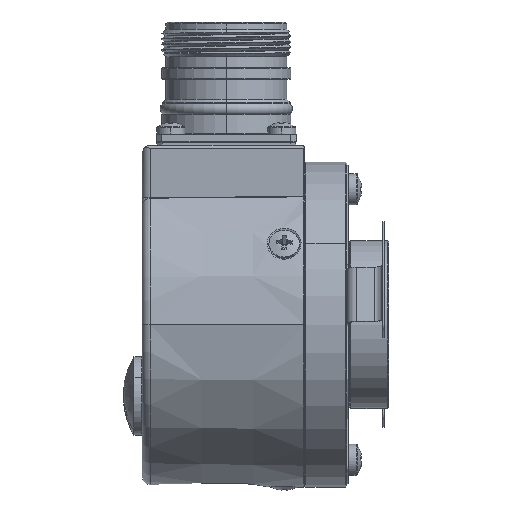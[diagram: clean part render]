
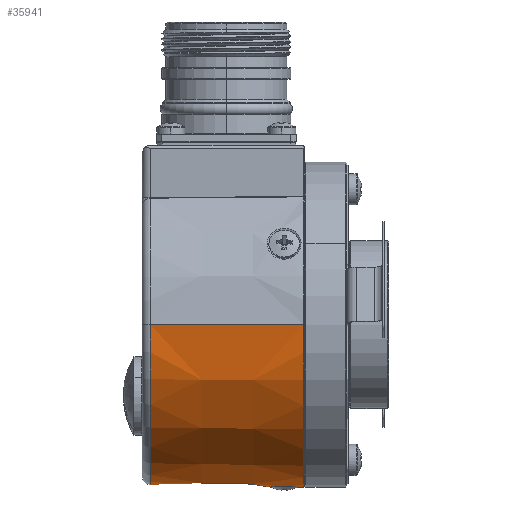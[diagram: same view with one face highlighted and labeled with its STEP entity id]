
A CAD part, left-side view. The second image highlights one B-rep face of the part: STEP entity #35941.
In plain terms, the highlighted conical face has half-angle 1 degrees and reference radius 28.565 mm.
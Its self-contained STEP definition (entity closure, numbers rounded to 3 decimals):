
#1093 = DIRECTION ( 'NONE',  ( 0., 1., 0. ) ) ;
#3034 = CARTESIAN_POINT ( 'NONE',  ( 2.503, 5.537, -28.866 ) ) ;
#3074 = CARTESIAN_POINT ( 'NONE',  ( -0.24, 6.713, -28.956 ) ) ;
#3429 = CARTESIAN_POINT ( 'NONE',  ( -0.851, 6.591, -28.944 ) ) ;
#3748 = CARTESIAN_POINT ( 'NONE',  ( 1.953, 1.286, -28.984 ) ) ;
#3786 = CARTESIAN_POINT ( 'NONE',  ( -1.43, 6.377, -28.925 ) ) ;
#4266 = DIRECTION ( 'NONE',  ( 1., 0., 0. ) ) ;
#4415 = CARTESIAN_POINT ( 'NONE',  ( 2.534, 1.849, -28.928 ) ) ;
#4455 = CARTESIAN_POINT ( 'NONE',  ( -2.115, 5.932, -28.891 ) ) ;
#5082 = CARTESIAN_POINT ( 'NONE',  ( -1.737, 1.146, -28.999 ) ) ;
#6358 = EDGE_CURVE ( 'NONE', #52792, #30845, #35399, .T. ) ;
#7968 = VECTOR ( 'NONE', #47500, 1000. ) ;
#8179 = CARTESIAN_POINT ( 'NONE',  ( 0., 27.526, 0. ) ) ;
#8319 = CARTESIAN_POINT ( 'NONE',  ( 3.187, 3.897, -28.828 ) ) ;
#8553 = EDGE_LOOP ( 'NONE', ( #58166, #69207, #32400, #45839 ) ) ;
#8694 = CARTESIAN_POINT ( 'NONE',  ( -1.957, 6.058, -28.9 ) ) ;
#9039 = CARTESIAN_POINT ( 'NONE',  ( -2.735, 2.136, -28.905 ) ) ;
#9351 = CARTESIAN_POINT ( 'NONE',  ( 1.738, 6.2, -28.911 ) ) ;
#9691 = CARTESIAN_POINT ( 'NONE',  ( -1.563, 1.038, -29.012 ) ) ;
#10178 = CARTESIAN_POINT ( 'NONE',  ( -28.591, 27.526, 0. ) ) ;
#10534 = CARTESIAN_POINT ( 'NONE',  ( 28.591, 27.526, 0. ) ) ;
#10946 = CARTESIAN_POINT ( 'NONE',  ( -28.565, 29., 0. ) ) ;
#11856 = AXIS2_PLACEMENT_3D ( 'NONE', #8179, #56467, #4266 ) ;
#13922 = CARTESIAN_POINT ( 'NONE',  ( -0.387, 0.668, -29.058 ) ) ;
#13959 = CARTESIAN_POINT ( 'NONE',  ( -1.048, 6.532, -28.939 ) ) ;
#14605 = CARTESIAN_POINT ( 'NONE',  ( 3.073, 2.911, -28.857 ) ) ;
#14650 = CARTESIAN_POINT ( 'NONE',  ( 0.998, 6.569, -28.942 ) ) ;
#14969 = CARTESIAN_POINT ( 'NONE',  ( 3.06, 4.481, -28.831 ) ) ;
#15003 = CARTESIAN_POINT ( 'NONE',  ( 1.389, 6.418, -28.928 ) ) ;
#15302 = CARTESIAN_POINT ( 'NONE',  ( -0.997, 0.798, -29.041 ) ) ;
#15688 = CARTESIAN_POINT ( 'NONE',  ( -1.737, 1.146, -28.999 ) ) ;
#16136 = DIRECTION ( 'NONE',  ( -1., 0., 0. ) ) ;
#18038 = AXIS2_PLACEMENT_3D ( 'NONE', #55358, #1093, #54317 ) ;
#18456 = CARTESIAN_POINT ( 'NONE',  ( -1.737, 1.146, -28.999 ) ) ;
#19194 = CARTESIAN_POINT ( 'NONE',  ( 1.738, 6.2, -28.911 ) ) ;
#19845 = CARTESIAN_POINT ( 'NONE',  ( 3.189, 3.494, -28.834 ) ) ;
#20189 = CARTESIAN_POINT ( 'NONE',  ( 1.439, 0.952, -29.021 ) ) ;
#24802 = CARTESIAN_POINT ( 'NONE',  ( -0.796, 0.742, -29.048 ) ) ;
#24845 = CARTESIAN_POINT ( 'NONE',  ( -3.166, 3.446, -28.838 ) ) ;
#25180 = CARTESIAN_POINT ( 'NONE',  ( -2.385, 1.646, -28.945 ) ) ;
#25890 = CARTESIAN_POINT ( 'NONE',  ( -2.879, 4.997, -28.842 ) ) ;
#25893 = VERTEX_POINT ( 'NONE', #33362 ) ;
#26187 = CARTESIAN_POINT ( 'NONE',  ( 28.565, 29., 0. ) ) ;
#26368 = AXIS2_PLACEMENT_3D ( 'NONE', #47985, #52522, #16136 ) ;
#29596 = VERTEX_POINT ( 'NONE', #58517 ) ;
#29774 = CARTESIAN_POINT ( 'NONE',  ( -3.036, 4.625, -28.831 ) ) ;
#30104 = CARTESIAN_POINT ( 'NONE',  ( -2.536, 5.495, -28.864 ) ) ;
#30429 = CARTESIAN_POINT ( 'NONE',  ( 2.404, 1.696, -28.942 ) ) ;
#30471 = CARTESIAN_POINT ( 'NONE',  ( -3.144, 3.25, -28.844 ) ) ;
#30769 = CARTESIAN_POINT ( 'NONE',  ( 0.233, 0.653, -29.06 ) ) ;
#30845 = VERTEX_POINT ( 'NONE', #10534 ) ;
#30908 = FACE_BOUND ( 'NONE', #65441, .T. ) ;
#31102 = CARTESIAN_POINT ( 'NONE',  ( 2.761, 2.178, -28.902 ) ) ;
#32400 = ORIENTED_EDGE ( 'NONE', *, *, #63447, .T. ) ;
#33362 = CARTESIAN_POINT ( 'NONE',  ( 29.068, 0.197, 0. ) ) ;
#34308 = B_SPLINE_CURVE_WITH_KNOTS ( 'NONE', 3,
 ( #18456, #9691, #41620, #15302, #24802, #13922, #62522, #30769, #57308, #51018, #20189, #3748, #36701, #30429, #4415, #31102, #62884, #51707, #14605, #19845, #8319, #14969, #68097, #52381, #51352, #3034, #36356, #41262, #36029, #9351 ),
 .UNSPECIFIED., .F., .F.,
 ( 4, 2, 2, 2, 2, 2, 2, 2, 2, 2, 2, 2, 2, 2, 4 ),
 ( 0.998, 1.029, 1.06, 1.092, 1.123, 1.185, 1.217, 1.248, 1.279, 1.31, 1.373, 1.404, 1.435, 1.467, 1.498 ),
 .UNSPECIFIED. ) ;
#34701 = B_SPLINE_CURVE_WITH_KNOTS ( 'NONE', 3,
 ( #19194, #15003, #14650, #57674, #3074, #3429, #13959, #3786, #56997, #8694, #4455, #41310, #30104, #25890, #29774, #62569, #51394, #24845, #30471, #46194, #67476, #36072, #9039, #25180, #57350, #15688 ),
 .UNSPECIFIED., .F., .F.,
 ( 4, 2, 2, 2, 2, 2, 2, 2, 2, 2, 2, 2, 4 ),
 ( 0.498, 0.56, 0.623, 0.654, 0.685, 0.717, 0.748, 0.81, 0.842, 0.873, 0.904, 0.935, 0.998 ),
 .UNSPECIFIED. ) ;
#35399 = CIRCLE ( 'NONE', #11856, 28.591 ) ;
#35941 = ADVANCED_FACE ( 'NONE', ( #30908, #47652 ), #67653, .T. ) ;
#36029 = CARTESIAN_POINT ( 'NONE',  ( 1.913, 6.091, -28.902 ) ) ;
#36072 = CARTESIAN_POINT ( 'NONE',  ( -2.834, 2.308, -28.892 ) ) ;
#36356 = CARTESIAN_POINT ( 'NONE',  ( 2.371, 5.688, -28.875 ) ) ;
#36701 = CARTESIAN_POINT ( 'NONE',  ( 2.113, 1.413, -28.97 ) ) ;
#41262 = CARTESIAN_POINT ( 'NONE',  ( 2.076, 5.965, -28.893 ) ) ;
#41310 = CARTESIAN_POINT ( 'NONE',  ( -2.405, 5.65, -28.873 ) ) ;
#41620 = CARTESIAN_POINT ( 'NONE',  ( -1.381, 0.946, -29.022 ) ) ;
#42285 = LINE ( 'NONE', #26187, #7968 ) ;
#44110 = EDGE_CURVE ( 'NONE', #52792, #29596, #62469, .T. ) ;
#44954 = CIRCLE ( 'NONE', #18038, 29.068 ) ;
#45839 = ORIENTED_EDGE ( 'NONE', *, *, #44110, .F. ) ;
#46194 = CARTESIAN_POINT ( 'NONE',  ( -3.059, 2.863, -28.86 ) ) ;
#47500 = DIRECTION ( 'NONE',  ( 0.017, -1., 0. ) ) ;
#47652 = FACE_OUTER_BOUND ( 'NONE', #8553, .T. ) ;
#47985 = CARTESIAN_POINT ( 'NONE',  ( 0., 29., 0. ) ) ;
#48380 = EDGE_CURVE ( 'NONE', #30845, #25893, #42285, .T. ) ;
#48387 = VERTEX_POINT ( 'NONE', #5082 ) ;
#49350 = VECTOR ( 'NONE', #56903, 1000. ) ;
#49604 = EDGE_CURVE ( 'NONE', #59699, #48387, #34701, .T. ) ;
#51018 = CARTESIAN_POINT ( 'NONE',  ( 1.053, 0.796, -29.041 ) ) ;
#51352 = CARTESIAN_POINT ( 'NONE',  ( 2.737, 5.208, -28.851 ) ) ;
#51394 = CARTESIAN_POINT ( 'NONE',  ( -3.17, 3.843, -28.83 ) ) ;
#51707 = CARTESIAN_POINT ( 'NONE',  ( 3.014, 2.723, -28.867 ) ) ;
#52381 = CARTESIAN_POINT ( 'NONE',  ( 2.837, 5.033, -28.844 ) ) ;
#52522 = DIRECTION ( 'NONE',  ( 0., -1., 0. ) ) ;
#52792 = VERTEX_POINT ( 'NONE', #10178 ) ;
#54221 = EDGE_CURVE ( 'NONE', #48387, #59699, #34308, .T. ) ;
#54317 = DIRECTION ( 'NONE',  ( 1., 0., 0. ) ) ;
#55358 = CARTESIAN_POINT ( 'NONE',  ( 0., 0.197, 0. ) ) ;
#56467 = DIRECTION ( 'NONE',  ( 0., -1., 0. ) ) ;
#56903 = DIRECTION ( 'NONE',  ( -0.017, -1., 0. ) ) ;
#56997 = CARTESIAN_POINT ( 'NONE',  ( -1.613, 6.282, -28.917 ) ) ;
#57308 = CARTESIAN_POINT ( 'NONE',  ( 0.441, 0.674, -29.057 ) ) ;
#57350 = CARTESIAN_POINT ( 'NONE',  ( -2.085, 1.364, -28.975 ) ) ;
#57674 = CARTESIAN_POINT ( 'NONE',  ( 0.183, 6.716, -28.956 ) ) ;
#58166 = ORIENTED_EDGE ( 'NONE', *, *, #6358, .T. ) ;
#58517 = CARTESIAN_POINT ( 'NONE',  ( -29.068, 0.197, 0. ) ) ;
#59699 = VERTEX_POINT ( 'NONE', #63779 ) ;
#62469 = LINE ( 'NONE', #10946, #49350 ) ;
#62522 = CARTESIAN_POINT ( 'NONE',  ( -0.181, 0.65, -29.06 ) ) ;
#62569 = CARTESIAN_POINT ( 'NONE',  ( -3.151, 4.041, -28.829 ) ) ;
#62884 = CARTESIAN_POINT ( 'NONE',  ( 2.858, 2.355, -28.889 ) ) ;
#63447 = EDGE_CURVE ( 'NONE', #25893, #29596, #44954, .T. ) ;
#63779 = CARTESIAN_POINT ( 'NONE',  ( 1.738, 6.2, -28.911 ) ) ;
#65441 = EDGE_LOOP ( 'NONE', ( #67402, #67802 ) ) ;
#67402 = ORIENTED_EDGE ( 'NONE', *, *, #54221, .T. ) ;
#67476 = CARTESIAN_POINT ( 'NONE',  ( -2.997, 2.673, -28.87 ) ) ;
#67653 = CONICAL_SURFACE ( 'NONE', #26368, 28.565, 0.017 ) ;
#67802 = ORIENTED_EDGE ( 'NONE', *, *, #49604, .T. ) ;
#68097 = CARTESIAN_POINT ( 'NONE',  ( 2.999, 4.668, -28.834 ) ) ;
#69207 = ORIENTED_EDGE ( 'NONE', *, *, #48380, .T. ) ;
